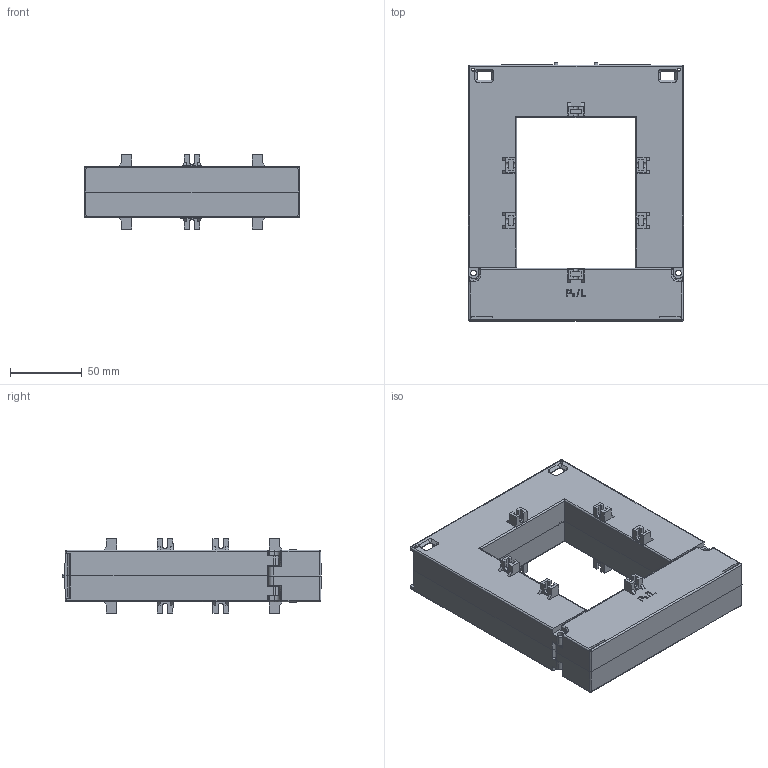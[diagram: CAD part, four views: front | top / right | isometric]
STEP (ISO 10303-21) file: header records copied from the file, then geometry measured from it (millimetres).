
FILE_DESCRIPTION(/* description */ (''),/* implementation_level */ '2;1');
FILE_NAME(/* name */ 'PL100 （老产品图）.stp',/* time_stamp */ '2025-11-01T15:43:36+08:00',/* author */ (''),/* organization */ (''),/* preprocessor_version */ 'ST-DEVELOPER v18.102',/* originating_system */ 'SIEMENS PLM Software NX2206.1700',/* authorisation */ '');
FILE_SCHEMA (('AUTOMOTIVE_DESIGN { 1 0 10303 214 3 1 1 1 }'));
Length unit declared in the file: millimetre
Products named in the file (1): PL100 （老产品图）_objects
Bounding box: 150 x 179.83 x 52 mm (x, y, z)
Volume: 177035.5 mm3; surface area: 163812.4 mm2
Topology: 4 solids, 4 shells, 1225 faces, 3435 edges, 2248 vertices
Faces by surface type: plane 916, cylinder 235, cone 36, extrusion 14, bspline 12, sphere 8, torus 4
Full cylindrical faces by diameter (mm): 1.002 x4, 4.008 x4, 4.2 x4, 5.2 x2, 5.5 x2
Entity records: 39734 total; most frequent: CARTESIAN_POINT 8277, ORIENTED_EDGE 6790, DIRECTION 6079, EDGE_CURVE 3395, VECTOR 2711, LINE 2697, VERTEX_POINT 2244, AXIS2_PLACEMENT_3D 1684
